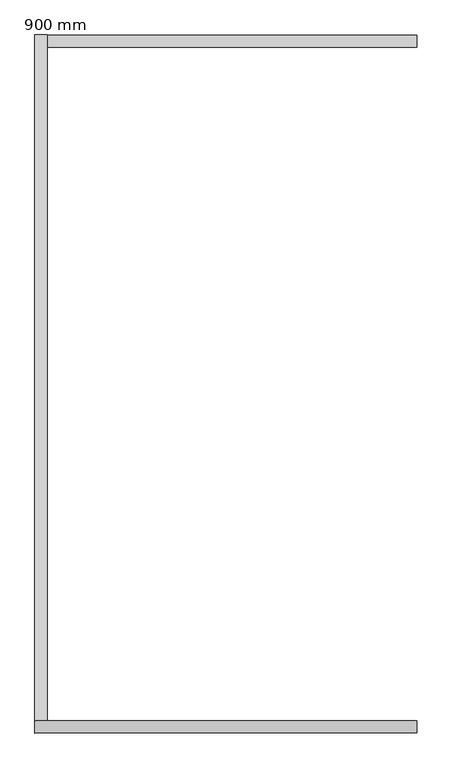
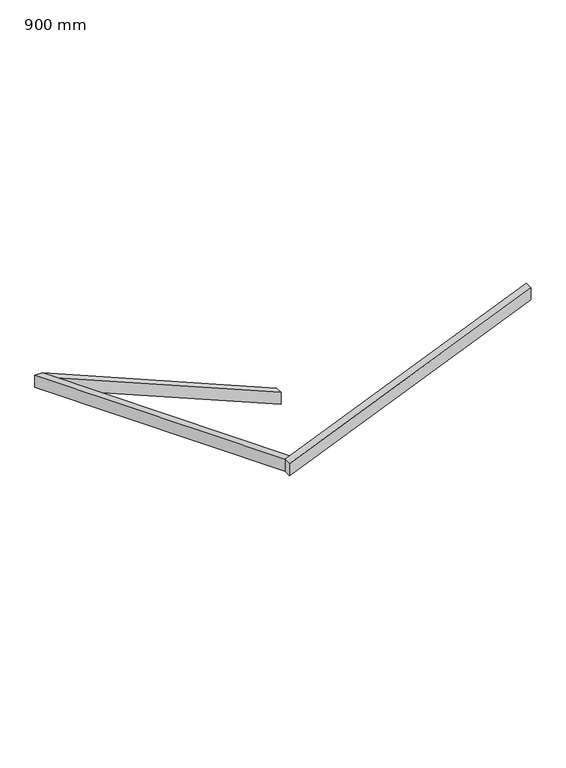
"""IFC4 building model written with IfcOpenShell, lengths in millimetres: railing geometry, 900 mm."""

import ifcopenshell
import ifcopenshell.guid

model = None  # the IFC model being written
_history = None  # IfcOwnerHistory: only IFC2X3 demands one
_inside = {}  # id of a spatial element -> (the spatial element, [elements in it])
_under = {}  # id of a project, library or spatial element -> (it, [spatial elements below it])
_declared = {}  # id of a project -> (the project, [libraries it declares])
_typed = {}  # id of a type object -> (the type object, [elements of that type])
_made_of = {}  # id of a material, layer set ... -> (it, [elements and type objects made of it])


def new_model(schema):
    """Start an empty IFC model of exactly this schema.

    Asked for "IFC4X3", IfcOpenShell would pick the latest addendum, in which some entities
    have other attributes; the version numbers below select the first issue.
    IFC2X3 requires an IfcOwnerHistory on every rooted entity: one is made here for all.
    """
    global model, _history
    if schema == "IFC4X3":
        model = ifcopenshell.file(schema_version=(4, 3, 0, 0))
    else:
        model = ifcopenshell.file(schema=schema)
    _inside.clear()
    _under.clear()
    _declared.clear()
    _typed.clear()
    _made_of.clear()
    _history = None
    if model.schema == "IFC2X3":
        org = make("IfcOrganization", Name="unknown")
        user = make(
            "IfcPersonAndOrganization",
            ThePerson=make("IfcPerson", FamilyName="unknown"),
            TheOrganization=org,
        )
        app = make(
            "IfcApplication",
            ApplicationDeveloper=org,
            Version="unknown",
            ApplicationFullName="unknown",
            ApplicationIdentifier="unknown",
        )
        _history = make(
            "IfcOwnerHistory",
            OwningUser=user,
            OwningApplication=app,
            ChangeAction="ADDED",
            CreationDate=0,
        )
    return model


def make(cls, **values):
    """One entity of the class cls with the attributes given. An attribute that is None is left unset."""
    return model.create_entity(
        cls, **{name: value for name, value in values.items() if value is not None}
    )


def rooted(cls, **values):
    """An entity with a GlobalId (a new one), such as an element, a storey or a relation."""
    return make(cls, GlobalId=ifcopenshell.guid.new(), OwnerHistory=_history, **values)


def si_unit(unit_type, name, prefix=None):
    """IfcSIUnit, for example si_unit("LENGTHUNIT", "METRE", prefix="MILLI")."""
    return make("IfcSIUnit", UnitType=unit_type, Prefix=prefix, Name=name)


def assignment(units):
    """IfcUnitAssignment: the units of a project."""
    return None if units is None else make("IfcUnitAssignment", Units=units)


def point(xyz):
    """IfcCartesianPoint."""
    return None if xyz is None else make("IfcCartesianPoint", Coordinates=xyz)


def direction(xyz):
    """IfcDirection."""
    return None if xyz is None else make("IfcDirection", DirectionRatios=xyz)


def frame(location, z_axis=None, x_axis=None):
    """IfcAxis2Placement3D, a coordinate frame: its origin and axes. An axis left out is left unset."""
    return make(
        "IfcAxis2Placement3D",
        Location=point(location),
        Axis=direction(z_axis),
        RefDirection=direction(x_axis),
    )


def origin():
    """The frame at (0, 0, 0) with its axes left unset."""
    return frame((0.0, 0.0, 0.0))


def place(relative_to, where):
    """IfcLocalPlacement: puts the frame where relative to a parent placement (None: the world)."""
    return make(
        "IfcLocalPlacement", PlacementRelTo=relative_to, RelativePlacement=where
    )


def context(
    kind, dimensions, precision=None, world=None, true_north=None, identifier=None
):
    """IfcGeometricRepresentationContext, for example the 3D "Model" context."""
    return make(
        "IfcGeometricRepresentationContext",
        ContextIdentifier=identifier,
        ContextType=kind,
        CoordinateSpaceDimension=dimensions,
        Precision=precision,
        WorldCoordinateSystem=world,
        TrueNorth=true_north,
    )


def project(units=None, contexts=None):
    """IfcProject with its units and contexts."""
    return rooted(
        "IfcProject",
        Name="project",
        RepresentationContexts=contexts,
        UnitsInContext=assignment(units),
    )


def spatial(cls, under=None, at=None, **own):
    """A site, building, storey or space (cls), placed at a placement, below another one or the project."""
    s = rooted(cls, ObjectPlacement=at, **own)
    if under is not None:
        _under.setdefault(under.id(), (under, []))[1].append(s)
    return s


def polyline(points):
    """IfcPolyline through the points."""
    return make("IfcPolyline", Points=[point(p) for p in points])


def outline(outer, holes=None, kind="AREA"):
    """IfcArbitraryClosedProfileDef: a profile drawn as a closed curve; with holes, ...WithVoids."""
    if holes is None:
        return make("IfcArbitraryClosedProfileDef", ProfileType=kind, OuterCurve=outer)
    return make(
        "IfcArbitraryProfileDefWithVoids",
        ProfileType=kind,
        OuterCurve=outer,
        InnerCurves=holes,
    )


def extrude(swept, where, along, depth):
    """IfcExtrudedAreaSolid: the profile swept, set in the frame where, extruded along a direction by depth."""
    return make(
        "IfcExtrudedAreaSolid",
        SweptArea=swept,
        Position=where,
        ExtrudedDirection=direction(along),
        Depth=depth,
    )


def shape(context_of_items, identifier, shape_type, items):
    """IfcShapeRepresentation: the items that make up one representation, for example the "Body"."""
    return make(
        "IfcShapeRepresentation",
        ContextOfItems=context_of_items,
        RepresentationIdentifier=identifier,
        RepresentationType=shape_type,
        Items=items,
    )


def source(mapping_origin, context_of_items, identifier, shape_type, items):
    """IfcRepresentationMap: a shape defined once, which mapped items show again and again."""
    return make(
        "IfcRepresentationMap",
        MappingOrigin=mapping_origin,
        MappedRepresentation=shape(context_of_items, identifier, shape_type, items),
    )


def transform(
    local_origin,
    x_axis=None,
    y_axis=None,
    z_axis=None,
    scale=None,
    scale2=None,
    scale3=None,
    uniform=True,
):
    """IfcCartesianTransformationOperator3D, or its non-uniform kind. x_axis, y_axis, z_axis: its Axis1, 2, 3."""
    if uniform:
        return make(
            "IfcCartesianTransformationOperator3D",
            Axis1=direction(x_axis),
            Axis2=direction(y_axis),
            LocalOrigin=point(local_origin),
            Scale=scale,
            Axis3=direction(z_axis),
        )
    return make(
        "IfcCartesianTransformationOperator3DnonUniform",
        Axis1=direction(x_axis),
        Axis2=direction(y_axis),
        LocalOrigin=point(local_origin),
        Scale=scale,
        Axis3=direction(z_axis),
        Scale2=scale2,
        Scale3=scale3,
    )


def mapped(mapping_source, mapping_target):
    """IfcMappedItem: shows the shape of a source again, moved by a transform."""
    return make(
        "IfcMappedItem", MappingSource=mapping_source, MappingTarget=mapping_target
    )


def made_of(thing, what):
    """Note that an element or type object is made of a material, layer set ...; save() writes the relation."""
    if what is not None:
        _made_of.setdefault(what.id(), (what, []))[1].append(thing)
    return thing


def element(
    cls,
    number,
    at=None,
    inside=None,
    cuts=None,
    type_object=None,
    material=None,
    context=None,
    identifier="Body",
    shape_type=None,
    held_by="IfcProductDefinitionShape",
    body=None,
    shapes=None,
    **own,
):
    """One element of the class cls, such as IfcWall. Its Tag is "e" and its number.

    at: its placement. inside: the storey or other place that contains it. cuts: it is an
    opening in that element (IfcRelVoidsElement). A single representation is given by context,
    identifier, shape_type and body (its items); several are given by shapes. held_by: the class
    of the entity that holds the representations. save() writes the other relations.
    """
    e = rooted(cls, Tag="e%d" % number, ObjectPlacement=at, **own)
    if body is not None:
        shapes = [shape(context, identifier, shape_type, body)]
    if shapes is not None:
        e.Representation = make(held_by, Representations=shapes)
    if inside is not None:
        _inside.setdefault(inside.id(), (inside, []))[1].append(e)
    if cuts is not None:
        rooted(
            "IfcRelVoidsElement", RelatingBuildingElement=cuts, RelatedOpeningElement=e
        )
    if type_object is not None:
        _typed.setdefault(type_object.id(), (type_object, []))[1].append(e)
    return made_of(e, material)


def aggregate(whole, parts):
    """IfcRelAggregates: a whole, such as a stair, and the parts it consists of."""
    return rooted("IfcRelAggregates", RelatingObject=whole, RelatedObjects=parts)


def save(model, path):
    """Write the relations noted so far, then the file.

    IfcRelAggregates (storeys below a building ...), IfcRelContainedInSpatialStructure (elements
    in a storey), IfcRelDefinesByType, IfcRelAssociatesMaterial and IfcRelDeclares: one each for
    every whole, place, type object, material and project.
    """
    for whole, parts in _under.values():
        aggregate(whole, parts)
    for where, things in _inside.values():
        rooted(
            "IfcRelContainedInSpatialStructure",
            RelatedElements=things,
            RelatingStructure=where,
        )
    for kind, things in _typed.values():
        rooted("IfcRelDefinesByType", RelatedObjects=things, RelatingType=kind)
    for what, things in _made_of.values():
        rooted("IfcRelAssociatesMaterial", RelatedObjects=things, RelatingMaterial=what)
    for by, libraries in _declared.values():
        rooted("IfcRelDeclares", RelatingContext=by, RelatedDefinitions=libraries)
    model.write(path)


def railing_900_mm_58355f22(model_context):
    return source(origin(), model_context, "Body", "SweptSolid", [
        extrude(outline(polyline([(-1645.4177549, -2530.0228675), (-1562.8125, -2530.0228675), (-924.8610484, -4054.2228675), (-1007.4663033, -4054.2228675), (-1645.4177549, -2530.0228675)])), frame((0.0, -1984.0888028, 0.0), z_axis=(0.0, 1.0, 0.0), x_axis=(0.0, 0.0, 1.0)), (0.0, 0.0, 1.0), 50.8),
        extrude(outline(polyline([(-1933.2888028, -924.1095133), (-1933.2888028, -1006.2327517), (-4757.4888028, 128.7582439), (-4757.4888028, 210.8814823), (-1933.2888028, -924.1095133)])), frame((-4105.0228675, 0.0, 0.0), z_axis=(1.0, 0.0, 0.0), x_axis=(0.0, 1.0, 0.0)), (0.0, 0.0, 1.0), 50.8),
        extrude(outline(polyline([(210.7862903, -4105.0228675), (128.1810354, -4105.0228675), (787.3947451, -2530.0228675), (870.0, -2530.0228675), (210.7862903, -4105.0228675)])), frame((0.0, -4808.2888028, 0.0), z_axis=(0.0, 1.0, 0.0), x_axis=(0.0, 0.0, 1.0)), (0.0, 0.0, 1.0), 50.8),
    ])


if __name__ == "__main__":
    model = new_model("IFC4")
    model_context = context("Model", 3, world=origin())
    ifc_project = project(units=[si_unit("LENGTHUNIT", "METRE", prefix="MILLI")], contexts=[model_context])
    site = spatial("IfcSite", under=ifc_project)
    building = spatial("IfcBuilding", under=site)
    placement = place(None, origin())
    railing_900_mm_shape = railing_900_mm_58355f22(model_context)
    element("IfcRailing", 1, ObjectType="900 mm", at=placement, inside=building, context=model_context, shape_type="MappedRepresentation", body=[
        mapped(railing_900_mm_shape, transform((0.0, 0.0, 0.0), x_axis=(1.0, 0.0, 0.0), y_axis=(0.0, 1.0, 0.0), z_axis=(0.0, 0.0, 1.0))),
    ])
    save(model, "model.ifc")
